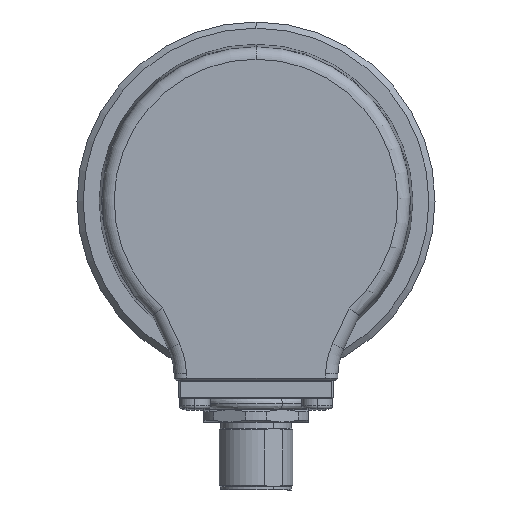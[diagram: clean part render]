
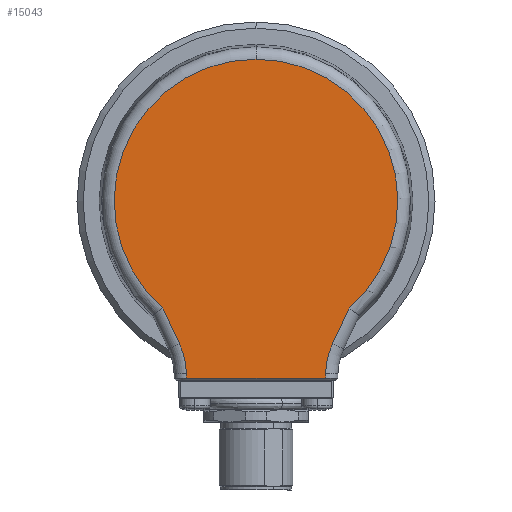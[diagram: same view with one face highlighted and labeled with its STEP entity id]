
A CAD part, left-side view. The second image highlights one B-rep face of the part: STEP entity #15043.
In plain terms, the highlighted planar face has unit normal (-1, 0, 0).
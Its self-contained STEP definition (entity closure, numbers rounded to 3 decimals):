
#27 = VERTEX_POINT ( 'NONE', #8619 ) ;
#423 = DIRECTION ( 'NONE',  ( 0., 0., 1. ) ) ;
#545 = VERTEX_POINT ( 'NONE', #9171 ) ;
#933 = CARTESIAN_POINT ( 'NONE',  ( -21., -11.255, -28.695 ) ) ;
#984 = DIRECTION ( 'NONE',  ( 0., -0.017, -1. ) ) ;
#1008 = ORIENTED_EDGE ( 'NONE', *, *, #10762, .T. ) ;
#1054 = LINE ( 'NONE', #11846, #5090 ) ;
#1106 = VERTEX_POINT ( 'NONE', #19188 ) ;
#1199 = DIRECTION ( 'NONE',  ( 0., -0.423, -0.906 ) ) ;
#1274 = VERTEX_POINT ( 'NONE', #15341 ) ;
#2344 = ORIENTED_EDGE ( 'NONE', *, *, #18419, .T. ) ;
#2474 = VECTOR ( 'NONE', #984, 1000. ) ;
#2930 = CARTESIAN_POINT ( 'NONE',  ( -21., 0., 0. ) ) ;
#2955 = DIRECTION ( 'NONE',  ( 0., 0., 1. ) ) ;
#3388 = EDGE_LOOP ( 'NONE', ( #13018, #17292, #8620, #17745, #6318, #15044, #3690, #2344, #1008 ) ) ;
#3539 = CARTESIAN_POINT ( 'NONE',  ( -21., 23.266, -28.183 ) ) ;
#3690 = ORIENTED_EDGE ( 'NONE', *, *, #15885, .T. ) ;
#4016 = EDGE_CURVE ( 'NONE', #10382, #27, #4864, .T. ) ;
#4465 = DIRECTION ( 'NONE',  ( 0., 0., 1. ) ) ;
#4575 = VERTEX_POINT ( 'NONE', #9532 ) ;
#4657 = EDGE_CURVE ( 'NONE', #27, #1274, #15550, .T. ) ;
#4864 = LINE ( 'NONE', #18717, #19675 ) ;
#5061 = DIRECTION ( 'NONE',  ( 0., 0., 1. ) ) ;
#5090 = VECTOR ( 'NONE', #1199, 1000. ) ;
#5241 = EDGE_CURVE ( 'NONE', #6365, #12723, #14577, .T. ) ;
#5349 = CIRCLE ( 'NONE', #13317, 22.972 ) ;
#5888 = DIRECTION ( 'NONE',  ( -1., 0., 0. ) ) ;
#6318 = ORIENTED_EDGE ( 'NONE', *, *, #18860, .T. ) ;
#6365 = VERTEX_POINT ( 'NONE', #11763 ) ;
#6531 = LINE ( 'NONE', #16161, #2474 ) ;
#8157 = DIRECTION ( 'NONE',  ( 0., -1., 0. ) ) ;
#8551 = LINE ( 'NONE', #9693, #12112 ) ;
#8619 = CARTESIAN_POINT ( 'NONE',  ( -21., -11.268, -27.974 ) ) ;
#8620 = ORIENTED_EDGE ( 'NONE', *, *, #4016, .T. ) ;
#8964 = AXIS2_PLACEMENT_3D ( 'NONE', #3539, #14183, #5061 ) ;
#9171 = CARTESIAN_POINT ( 'NONE',  ( -21., 11.268, -27.974 ) ) ;
#9532 = CARTESIAN_POINT ( 'NONE',  ( -21., 12.39, -23.112 ) ) ;
#9541 = DIRECTION ( 'NONE',  ( 1., 0., 0. ) ) ;
#9642 = EDGE_CURVE ( 'NONE', #1106, #10382, #8551, .T. ) ;
#9693 = CARTESIAN_POINT ( 'NONE',  ( -21., -11.25, -28.695 ) ) ;
#10317 = DIRECTION ( 'NONE',  ( 1., 0., 0. ) ) ;
#10341 = VERTEX_POINT ( 'NONE', #15950 ) ;
#10382 = VERTEX_POINT ( 'NONE', #933 ) ;
#10762 = EDGE_CURVE ( 'NONE', #4575, #545, #13269, .T. ) ;
#11409 = AXIS2_PLACEMENT_3D ( 'NONE', #12490, #9541, #423 ) ;
#11763 = CARTESIAN_POINT ( 'NONE',  ( -21., -15.091, -17.32 ) ) ;
#11846 = CARTESIAN_POINT ( 'NONE',  ( -21., 12.39, -23.112 ) ) ;
#11999 = LINE ( 'NONE', #12543, #19663 ) ;
#12112 = VECTOR ( 'NONE', #8157, 1000. ) ;
#12490 = CARTESIAN_POINT ( 'NONE',  ( -21., 0., 0. ) ) ;
#12543 = CARTESIAN_POINT ( 'NONE',  ( -21., -14.953, -17.615 ) ) ;
#12723 = VERTEX_POINT ( 'NONE', #18327 ) ;
#12819 = CARTESIAN_POINT ( 'NONE',  ( -21., -23.266, -28.183 ) ) ;
#13018 = ORIENTED_EDGE ( 'NONE', *, *, #18330, .T. ) ;
#13269 = CIRCLE ( 'NONE', #8964, 12. ) ;
#13317 = AXIS2_PLACEMENT_3D ( 'NONE', #14998, #5888, #16515 ) ;
#13588 = DIRECTION ( 'NONE',  ( -1., 0., 0. ) ) ;
#14183 = DIRECTION ( 'NONE',  ( 1., 0., 0. ) ) ;
#14577 = CIRCLE ( 'NONE', #17023, 22.972 ) ;
#14998 = CARTESIAN_POINT ( 'NONE',  ( -21., 0., 0. ) ) ;
#15043 = ADVANCED_FACE ( 'NONE', ( #19471 ), #18664, .F. ) ;
#15044 = ORIENTED_EDGE ( 'NONE', *, *, #5241, .T. ) ;
#15341 = CARTESIAN_POINT ( 'NONE',  ( -21., -12.39, -23.112 ) ) ;
#15550 = CIRCLE ( 'NONE', #16762, 12. ) ;
#15610 = DIRECTION ( 'NONE',  ( 0., -0.017, 1. ) ) ;
#15885 = EDGE_CURVE ( 'NONE', #12723, #10341, #5349, .T. ) ;
#15950 = CARTESIAN_POINT ( 'NONE',  ( -21., 15.091, -17.32 ) ) ;
#16161 = CARTESIAN_POINT ( 'NONE',  ( -21., 11.752, -0.205 ) ) ;
#16515 = DIRECTION ( 'NONE',  ( 0., 0., 1. ) ) ;
#16762 = AXIS2_PLACEMENT_3D ( 'NONE', #12819, #10317, #2955 ) ;
#17023 = AXIS2_PLACEMENT_3D ( 'NONE', #2930, #13588, #4465 ) ;
#17082 = DIRECTION ( 'NONE',  ( 0., -0.423, 0.906 ) ) ;
#17292 = ORIENTED_EDGE ( 'NONE', *, *, #9642, .T. ) ;
#17745 = ORIENTED_EDGE ( 'NONE', *, *, #4657, .T. ) ;
#18327 = CARTESIAN_POINT ( 'NONE',  ( -21., 0., 22.972 ) ) ;
#18330 = EDGE_CURVE ( 'NONE', #545, #1106, #6531, .T. ) ;
#18419 = EDGE_CURVE ( 'NONE', #10341, #4575, #1054, .T. ) ;
#18664 = PLANE ( 'NONE',  #11409 ) ;
#18717 = CARTESIAN_POINT ( 'NONE',  ( -21., -11.752, -0.205 ) ) ;
#18860 = EDGE_CURVE ( 'NONE', #1274, #6365, #11999, .T. ) ;
#19188 = CARTESIAN_POINT ( 'NONE',  ( -21., 11.255, -28.695 ) ) ;
#19471 = FACE_OUTER_BOUND ( 'NONE', #3388, .T. ) ;
#19663 = VECTOR ( 'NONE', #17082, 1000. ) ;
#19675 = VECTOR ( 'NONE', #15610, 1000. ) ;
